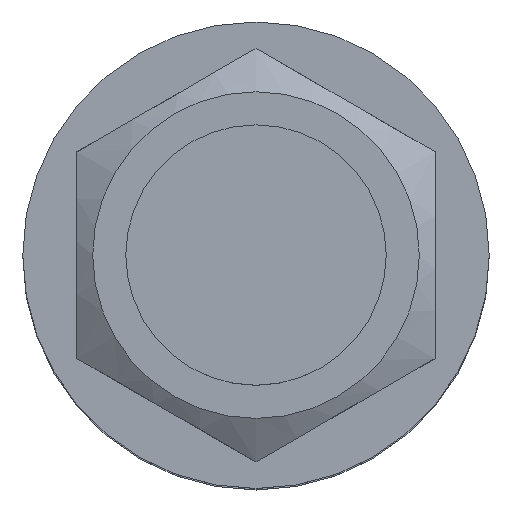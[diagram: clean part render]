
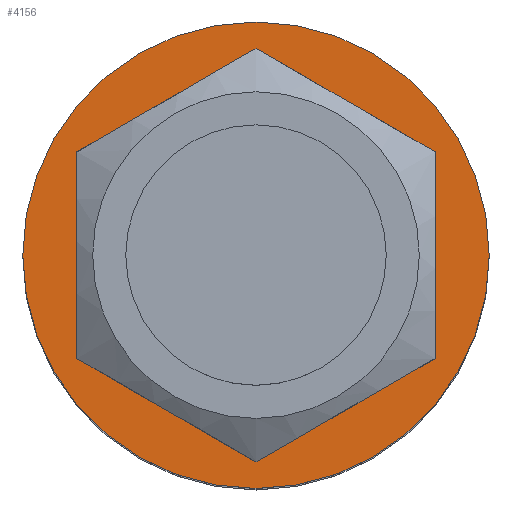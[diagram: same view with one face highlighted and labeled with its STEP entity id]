
A CAD part, top view. The second image highlights one B-rep face of the part: STEP entity #4156.
In plain terms, the highlighted planar face has unit normal (0, 0, 1).
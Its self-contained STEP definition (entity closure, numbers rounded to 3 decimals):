
#147=FACE_BOUND('',#799,.T.);
#261=PLANE('',#4401);
#561=FACE_OUTER_BOUND('',#798,.T.);
#798=EDGE_LOOP('',(#3604));
#799=EDGE_LOOP('',(#3605));
#1387=CIRCLE('',#4358,7.526);
#1404=CIRCLE('',#4402,10.75);
#1931=VERTEX_POINT('',#9249);
#1959=VERTEX_POINT('',#9382);
#2462=EDGE_CURVE('',#1931,#1931,#1387,.T.);
#2511=EDGE_CURVE('',#1959,#1959,#1404,.T.);
#3604=ORIENTED_EDGE('',*,*,#2511,.F.);
#3605=ORIENTED_EDGE('',*,*,#2462,.T.);
#4156=ADVANCED_FACE('',(#561,#147),#261,.F.);
#4358=AXIS2_PLACEMENT_3D('',#9251,#5020,#5021);
#4401=AXIS2_PLACEMENT_3D('',#9381,#5124,#5125);
#4402=AXIS2_PLACEMENT_3D('',#9383,#5126,#5127);
#5020=DIRECTION('center_axis',(0.,0.,-1.));
#5021=DIRECTION('ref_axis',(1.,0.,0.));
#5124=DIRECTION('center_axis',(0.,0.,-1.));
#5125=DIRECTION('ref_axis',(-1.,0.,0.));
#5126=DIRECTION('center_axis',(0.,0.,-1.));
#5127=DIRECTION('ref_axis',(-1.,0.,0.));
#9249=CARTESIAN_POINT('',(0.,-7.526,-5.));
#9251=CARTESIAN_POINT('Origin',(0.,0.,-5.));
#9381=CARTESIAN_POINT('Origin',(0.,0.,-5.));
#9382=CARTESIAN_POINT('',(10.75,0.,-5.));
#9383=CARTESIAN_POINT('Origin',(0.,0.,-5.));
